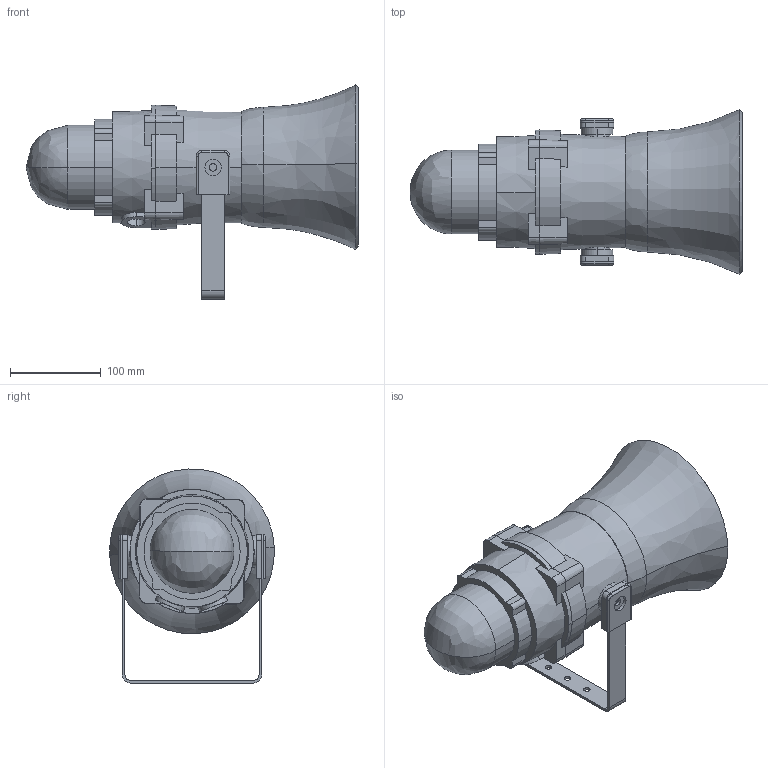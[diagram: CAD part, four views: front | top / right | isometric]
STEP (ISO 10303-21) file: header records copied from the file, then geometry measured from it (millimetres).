
FILE_DESCRIPTION (( 'STEP AP214' ), '1' );
FILE_NAME ('BExCS.STEP', '2017-06-23T07:47:26', ( '' ), ( '' ), 'SwSTEP 2.0', 'SolidWorks 2015', '' );
FILE_SCHEMA (( 'AUTOMOTIVE_DESIGN' ));
Length unit declared in the file: millimetre
Products named in the file (2): BExCS
Bounding box: 365.6 x 181.45 x 235.73 mm (x, y, z)
Volume: 2428500 mm3; surface area: 394003.3 mm2
Topology: 8 solids, 8 shells, 257 faces, 652 edges, 426 vertices
Faces by surface type: plane 121, cylinder 83, cone 34, bspline 19
Entity records: 11651 total; most frequent: CARTESIAN_POINT 2446, DIRECTION 1319, ORIENTED_EDGE 1296, EDGE_CURVE 648, AXIS2_PLACEMENT_3D 499, VERTEX_POINT 426, LINE 321, VECTOR 321
